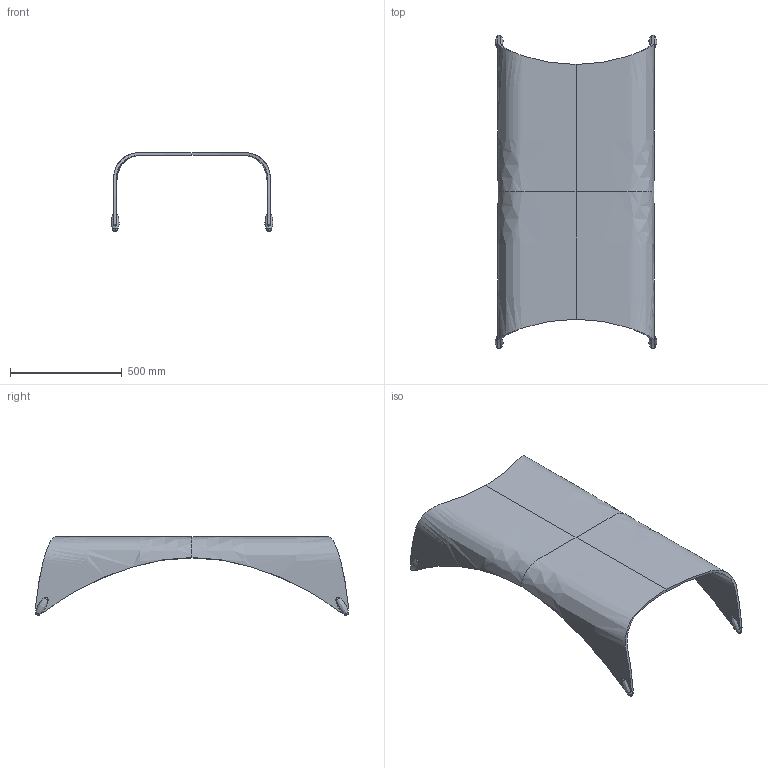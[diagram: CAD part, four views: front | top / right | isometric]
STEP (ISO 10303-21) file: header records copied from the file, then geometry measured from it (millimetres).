
FILE_DESCRIPTION(/* description */ (''),/* implementation_level */ '2;1');
FILE_NAME(/* name */ '037 - Genio 140x70',/* time_stamp */ '2010-11-04T08:48:41+01:00',/* author */ (''),/* organization */ (''),/* preprocessor_version */ 'ST-DEVELOPER v10',/* originating_system */ '',/* authorisation */ '');
FILE_SCHEMA (('CONFIG_CONTROL_DESIGN'));
Length unit declared in the file: centimetre
Products named in the file (1): 1
Bounding box: 724 x 1400.91 x 351.43 mm (x, y, z)
Volume: 14223792.3 mm3; surface area: 2452212.1 mm2
Topology: 5 solids, 5 shells, 60 faces, 144 edges, 86 vertices
Faces by surface type: bspline 52, plane 8
Entity records: 5008 total; most frequent: CARTESIAN_POINT 4090, ORIENTED_EDGE 272, EDGE_CURVE 136, B_SPLINE_CURVE_WITH_KNOTS 96, VERTEX_POINT 86, ADVANCED_FACE 60, FACE_OUTER_BOUND 60, EDGE_LOOP 60
